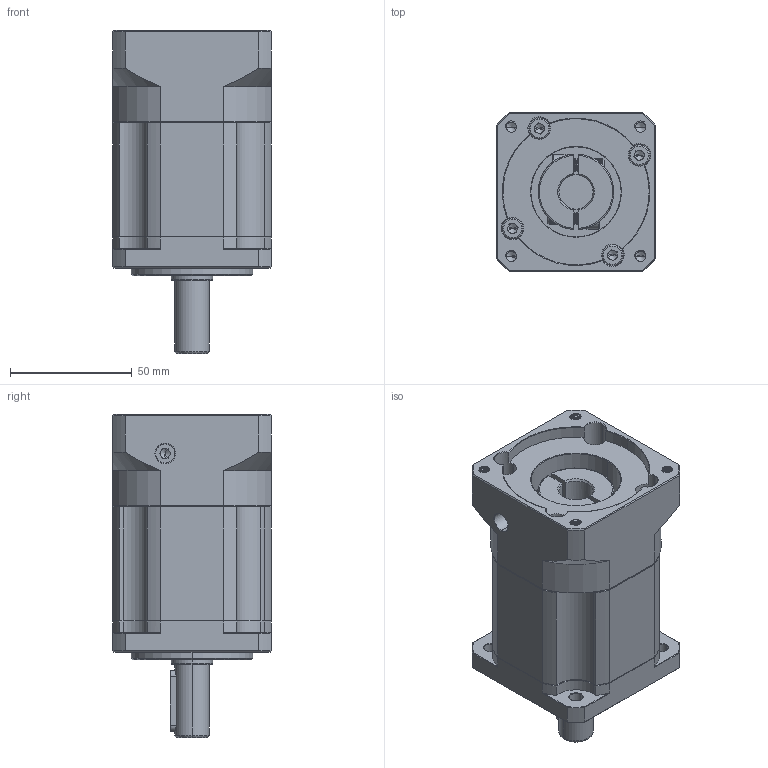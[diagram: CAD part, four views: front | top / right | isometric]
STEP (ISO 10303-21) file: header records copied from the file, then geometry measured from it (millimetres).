
FILE_DESCRIPTION (( 'STEP AP214' ), '1' );
FILE_NAME ('ZB060-D14-L2-P2-14-60-75-M5.step', '2023-08-16T07:01:30', ( '' ), ( '' ), 'SwSTEP 2.0', 'SolidWorks 2016', '' );
FILE_SCHEMA (( 'AUTOMOTIVE_DESIGN' ));
Length unit declared in the file: millimetre
Products named in the file (1): ZB060-D14-L2-P2-14-60-75-M5
Bounding box: 65 x 65 x 132.5 mm (x, y, z)
Volume: 325203.1 mm3; surface area: 58454.3 mm2
Topology: 6 solids, 6 shells, 2172 faces, 5855 edges, 3767 vertices
Faces by surface type: plane 1059, bspline 397, cylinder 396, cone 284, torus 36
Entity records: 118016 total; most frequent: CARTESIAN_POINT 42731, ORIENTED_EDGE 11650, DIRECTION 9188, EDGE_CURVE 5825, VERTEX_POINT 3767, LINE 3660, VECTOR 3660, AXIS2_PLACEMENT_3D 2764
